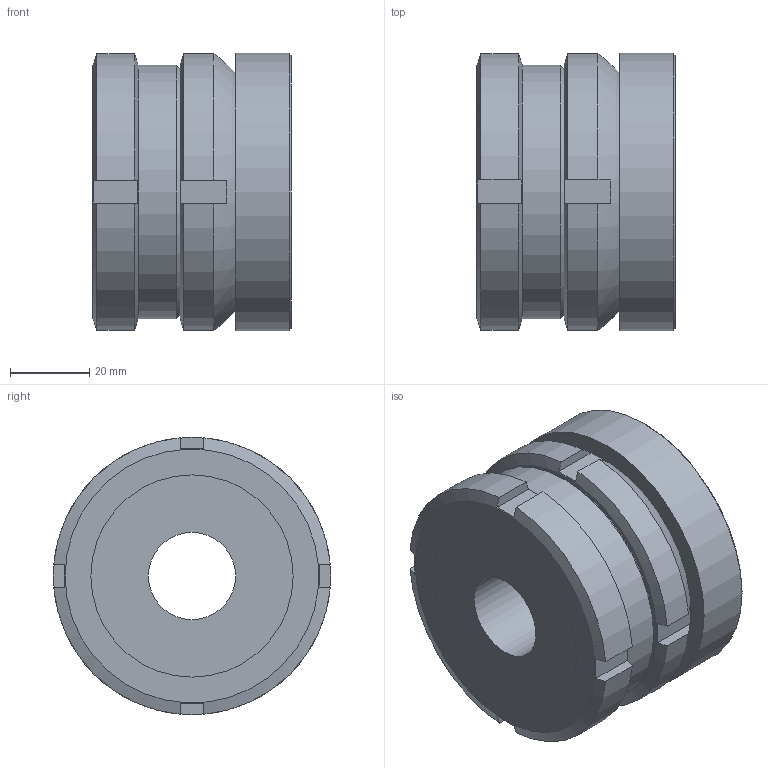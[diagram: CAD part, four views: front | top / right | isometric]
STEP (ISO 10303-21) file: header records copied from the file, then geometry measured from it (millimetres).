
FILE_DESCRIPTION( ( 'STEP AP203' ), '1' );
FILE_NAME( 'C:/Temp/Ganter_Step_05_03_2020/data/3_2/gn350_2/gn_350_2_ni/Stainless Steel-Levelling set GN 350.2-70-22-50-NI (0-0).stp', '2020-03-13T05:28:14', ( 'License CC BY-ND 4.0' ), ( 'CADENAS' ), ' ', 'PARTsolutions', ' ' );
FILE_SCHEMA( ( 'CONFIG_CONTROL_DESIGN' ) );
Length unit declared in the file: millimetre
Products named in the file (4): Stainless Steel-Levelling set GN 350.2-70-22-50-NI (0-0); _Levelling set GN 350.2-70-22-50-ST-G; _Levelling set GN 350.2-70-22-50-ST-K; _Levelling set GN 350.2-70-22-50-ST-P(0)
Assembly tree (3 placements, depth 2):
  Stainless Steel-Levelling set GN 350.2-70-22-50-NI (0-0)
    _Levelling set GN 350.2-70-22-50-ST-G
    _Levelling set GN 350.2-70-22-50-ST-K
    _Levelling set GN 350.2-70-22-50-ST-P(0)
Bounding box: 50 x 70 x 70 mm (x, y, z)
Volume: 157399 mm3; surface area: 38980.9 mm2
Topology: 3 solids, 3 shells, 62 faces, 149 edges, 99 vertices
Faces by surface type: plane 36, cylinder 19, cone 5, sphere 2
Full cylindrical faces by diameter (mm): 22 x1, 40 x1, 43.529 x1, 44.5 x1, 48.376 x1, 49 x1, 50 x1, 51 x2, 64 x1, 70 x1
Entity records: 1925 total; most frequent: CARTESIAN_POINT 462, DIRECTION 276, ORIENTED_EDGE 248, EDGE_CURVE 124, AXIS2_PLACEMENT_3D 122, EDGE_LOOP 92, VERTEX_POINT 92, FACE_OUTER_BOUND 75
